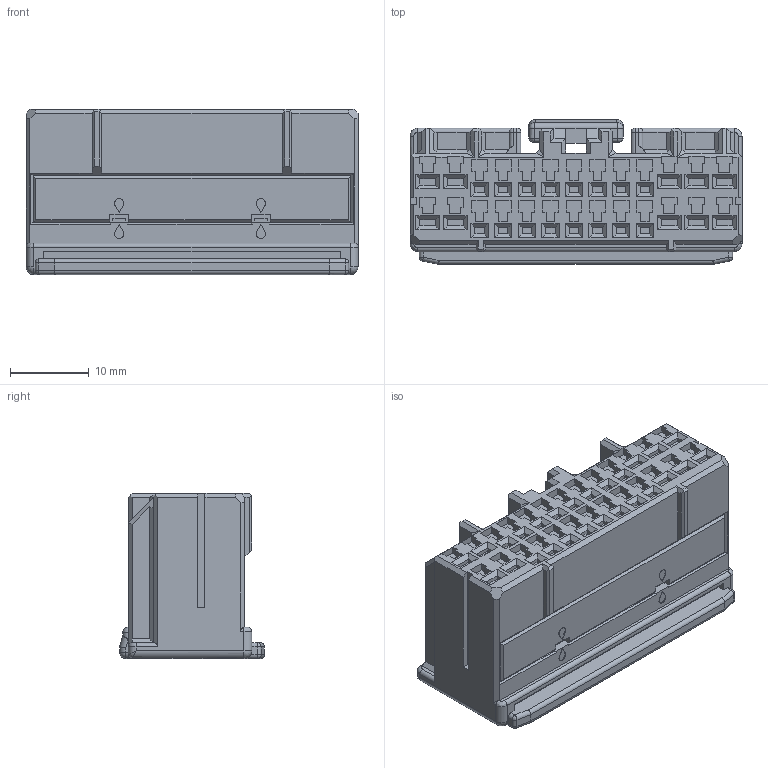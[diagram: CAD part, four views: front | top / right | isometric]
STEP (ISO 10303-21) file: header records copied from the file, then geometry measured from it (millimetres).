
FILE_DESCRIPTION((''),'2;1');
FILE_NAME('C-917992-1','2010-02-11T',('workeradm'),(''),'PRO/ENGINEER BY PARAMETRIC TECHNOLOGY CORPORATION, 2008380','PRO/ENGINEER BY PARAMETRIC TECHNOLOGY CORPORATION, 2008380','');
FILE_SCHEMA(('AUTOMOTIVE_DESIGN { 1 0 10303 214 1 1 1 1 }'));
Length unit declared in the file: millimetre
Products named in the file (1): C-917992-1
Bounding box: 42.2 x 18.4 x 21 mm (x, y, z)
Volume: 10731.9 mm3; surface area: 5438.3 mm2
Topology: 1 solids, 1 shells, 1264 faces, 3305 edges, 2119 vertices
Faces by surface type: plane 1169, cylinder 68, sphere 16, bspline 10, torus 1
Entity records: 38238 total; most frequent: CARTESIAN_POINT 7269, ORIENTED_EDGE 6610, DIRECTION 5870, EDGE_CURVE 3305, VECTOR 3150, LINE 3150, VERTEX_POINT 2119, AXIS2_PLACEMENT_3D 1360
